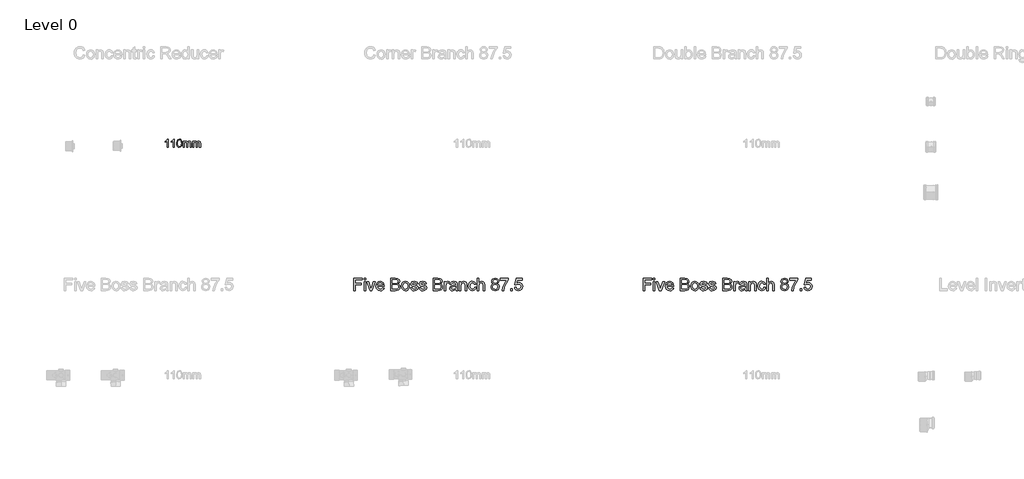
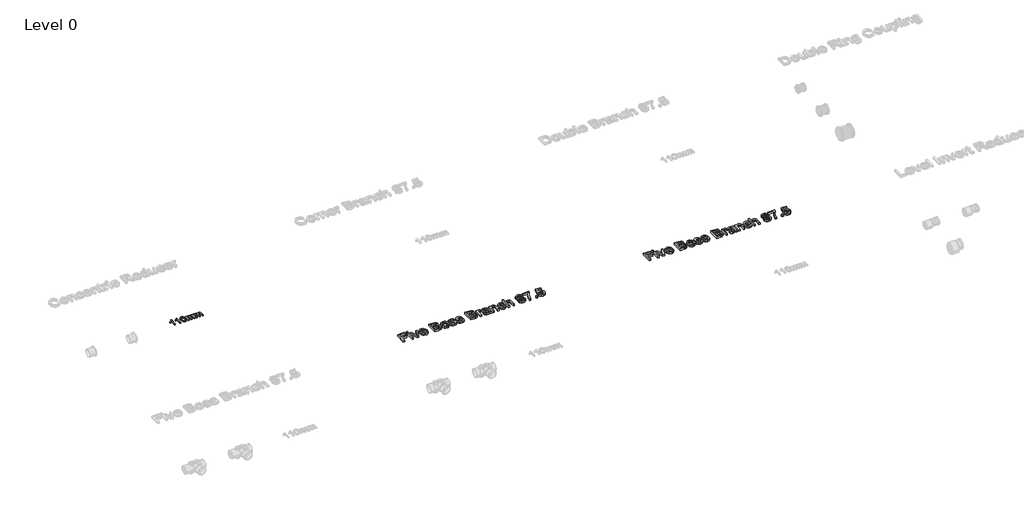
# One storey, part 17 of 23: 3 proxies.
"""IFC4 building model written with IfcOpenShell, lengths in millimetres."""

from ifc_helpers import new_model, si_unit, origin, origin_with_axes, place, context, project, spatial, polyline, outline, extrude, element, save

model = new_model("IFC4")

# Units and contexts
model_context = context("Model", 3, world=origin())
ifc_project = project(units=[si_unit("LENGTHUNIT", "METRE", prefix="MILLI")], contexts=[model_context])

# Site, building, storey
site = spatial("IfcSite", under=ifc_project)
building = spatial("IfcBuilding", under=site)
storey = spatial("IfcBuildingStorey", under=building, Name="Level 0", Elevation=0.0)

# Proxies
placement = place(None, origin())
element("IfcBuildingElementProxy", 1, Name="100mm Arial", ObjectType="100mm Arial", at=placement, inside=storey, context=model_context, shape_type="SweptSolid", body=[
    extrude(outline(polyline([(-6791.7293188, 5437.7167304), (-6804.0370111, 5437.7167304), (-6804.0370111, 5514.4474996), (-6815.6956649, 5506.1422111), (-6828.6523957, 5499.9282688), (-6828.6523957, 5511.5628842), (-6810.6115303, 5523.0773073), (-6799.6620111, 5536.1782688), (-6791.7293188, 5536.1782688), (-6791.7293188, 5437.7167304)])), origin_with_axes(), (0.0, 0.0, 1.0), 15.0),
    extrude(outline(polyline([(-6716.3447034, 5437.7167304), (-6728.6523957, 5437.7167304), (-6728.6523957, 5514.4474996), (-6740.3110495, 5506.1422111), (-6753.2677803, 5499.9282688), (-6753.2677803, 5511.5628842), (-6735.2269149, 5523.0773073), (-6724.2773957, 5536.1782688), (-6716.3447034, 5536.1782688), (-6716.3447034, 5437.7167304)])), origin_with_axes(), (0.0, 0.0, 1.0), 15.0),
    extrude(outline(polyline([(-6687.1139341, 5486.1542304), (-6683.4961457, 5514.4835573), (-6672.7509534, 5530.8176919), (-6654.8062418, 5536.1782688), (-6640.4312418, 5533.0051919), (-6630.5033572, 5523.8585573), (-6624.7341264, 5509.2912496), (-6622.4985495, 5486.1542304), (-6626.0802803, 5457.9450958), (-6636.7894149, 5441.5749035), (-6654.8062418, 5436.1782688), (-6667.5947034, 5438.5220188), (-6677.3062418, 5445.5532688), (-6684.6620111, 5462.2059131), (-6687.1139341, 5486.1542304)]), holes=[polyline([(-6674.8062418, 5486.1782688), (-6673.3639341, 5466.8182929), (-6669.0370111, 5455.613365), (-6662.5947034, 5450.2678121), (-6654.8062418, 5448.4859611), (-6647.0177803, 5450.2738217), (-6640.5754726, 5455.6374035), (-6636.2485495, 5466.848341), (-6634.8062418, 5486.1782688), (-6636.2004726, 5505.1025477), (-6640.3831649, 5516.394615), (-6646.8134534, 5522.0015861), (-6654.9504726, 5523.8705765), (-6662.6547995, 5522.2239419), (-6668.8447034, 5517.2840381), (-6673.3158572, 5505.2888458), (-6674.8062418, 5486.1782688)])]), origin_with_axes(), (0.0, 0.0, 1.0), 15.0),
    extrude(outline(polyline([(-6608.6523957, 5437.7167304), (-6608.6523957, 5510.0244227), (-6596.3447034, 5510.0244227), (-6596.3447034, 5498.1253842), (-6587.8831649, 5507.8729804), (-6575.8398957, 5511.5628842), (-6563.5081649, 5507.800865), (-6556.7293188, 5497.2599996), (-6547.1259534, 5507.9871631), (-6534.9985495, 5511.5628842), (-6525.7467466, 5510.0755044), (-6518.9047995, 5505.613365), (-6514.6770351, 5498.0562736), (-6513.2677803, 5487.2840381), (-6513.2677803, 5437.7167304), (-6525.5754726, 5437.7167304), (-6525.5754726, 5481.9955765), (-6526.7172995, 5492.2720188), (-6530.8519149, 5497.332115), (-6537.8831649, 5499.2551919), (-6549.9865303, 5494.3273073), (-6554.8062418, 5478.5340381), (-6554.8062418, 5437.7167304), (-6567.1139341, 5437.7167304), (-6567.1139341, 5483.3657688), (-6569.9624918, 5495.2888458), (-6579.3014341, 5499.2551919), (-6588.4120111, 5496.6109611), (-6594.4697034, 5488.8705765), (-6596.3447034, 5474.1830765), (-6596.3447034, 5437.7167304), (-6608.6523957, 5437.7167304)])), origin_with_axes(), (0.0, 0.0, 1.0), 15.0),
    extrude(outline(polyline([(-6494.8062418, 5437.7167304), (-6494.8062418, 5510.0244227), (-6482.4985495, 5510.0244227), (-6482.4985495, 5498.1253842), (-6474.0370111, 5507.8729804), (-6461.9937418, 5511.5628842), (-6449.6620111, 5507.800865), (-6442.8831649, 5497.2599996), (-6433.2797995, 5507.9871631), (-6421.1523957, 5511.5628842), (-6411.9005928, 5510.0755044), (-6405.0586457, 5505.613365), (-6400.8308813, 5498.0562736), (-6399.4216264, 5487.2840381), (-6399.4216264, 5437.7167304), (-6411.7293188, 5437.7167304), (-6411.7293188, 5481.9955765), (-6412.8711457, 5492.2720188), (-6417.0057611, 5497.332115), (-6424.0370111, 5499.2551919), (-6436.1403764, 5494.3273073), (-6440.960088, 5478.5340381), (-6440.960088, 5437.7167304), (-6453.2677803, 5437.7167304), (-6453.2677803, 5483.3657688), (-6456.116338, 5495.2888458), (-6465.4552803, 5499.2551919), (-6474.5658572, 5496.6109611), (-6480.6235495, 5488.8705765), (-6482.4985495, 5474.1830765), (-6482.4985495, 5437.7167304), (-6494.8062418, 5437.7167304)])), origin_with_axes(), (0.0, 0.0, 1.0), 15.0),
])
element("IfcBuildingElementProxy", 2, Name="150mm Arial", ObjectType="150mm Arial", at=placement, inside=storey, context=model_context, shape_type="SweptSolid", body=[
    extrude(outline(polyline([(-4544.4510666, 3705.2145219), (-4544.4510666, 3852.9068296), (-4445.2202973, 3852.9068296), (-4445.2202973, 3834.4452911), (-4525.9895281, 3834.4452911), (-4525.9895281, 3790.5991373), (-4456.7587589, 3790.5991373), (-4456.7587589, 3772.1375988), (-4525.9895281, 3772.1375988), (-4525.9895281, 3705.2145219), (-4544.4510666, 3705.2145219)])), origin_with_axes(), (0.0, 0.0, 1.0), 25.0),
    extrude(outline(polyline([(-4422.1433743, 3834.4452911), (-4422.1433743, 3852.9068296), (-4403.6818358, 3852.9068296), (-4403.6818358, 3834.4452911), (-4422.1433743, 3834.4452911)])), origin_with_axes(), (0.0, 0.0, 1.0), 25.0),
    extrude(outline(polyline([(-4422.1433743, 3705.2145219), (-4422.1433743, 3813.6760604), (-4403.6818358, 3813.6760604), (-4403.6818358, 3705.2145219), (-4422.1433743, 3705.2145219)])), origin_with_axes(), (0.0, 0.0, 1.0), 25.0),
    extrude(outline(polyline([(-4349.3789512, 3705.2145219), (-4387.5279897, 3813.6760604), (-4367.9847204, 3813.6760604), (-4344.8717397, 3748.7000988), (-4337.912605, 3726.8491373), (-4331.0977012, 3747.4741373), (-4307.8404897, 3813.6760604), (-4288.2972204, 3813.6760604), (-4325.9775089, 3705.2145219), (-4349.3789512, 3705.2145219)])), origin_with_axes(), (0.0, 0.0, 1.0), 25.0),
    extrude(outline(polyline([(-4196.2058743, 3737.5222142), (-4178.1049127, 3735.2145219), (-4184.6268478, 3721.5756998), (-4195.0339993, 3711.3803873), (-4209.0919921, 3705.025219), (-4226.5664512, 3702.9068296), (-4248.2281098, 3706.5621782), (-4264.8957781, 3717.5282238), (-4275.5237829, 3735.0928272), (-4279.0664512, 3758.5438488), (-4275.4877252, 3782.7836325), (-4264.7515473, 3800.9116373), (-4248.3092397, 3812.2157238), (-4227.6121243, 3815.9837527), (-4207.5595401, 3812.2247383), (-4191.5364031, 3800.947695), (-4181.030093, 3782.8557479), (-4177.5279897, 3758.6520219), (-4177.6361627, 3753.6760604), (-4260.6049127, 3753.6760604), (-4257.4092997, 3739.8569498), (-4249.9859223, 3729.697695), (-4239.2722805, 3723.4506998), (-4226.2058743, 3721.3683681), (-4208.1049127, 3725.2265411), (-4196.2058743, 3737.5222142)]), holes=[polyline([(-4260.6049127, 3772.1375988), (-4195.9895281, 3772.1375988), (-4198.4865233, 3781.8912046), (-4203.381355, 3788.8683681), (-4214.1445762, 3795.3587527), (-4227.6842397, 3797.5222142), (-4240.1286507, 3795.7959522), (-4250.4186147, 3790.6171661), (-4257.5715594, 3782.5447503), (-4260.6049127, 3772.1375988)])]), origin_with_axes(), (0.0, 0.0, 1.0), 25.0),
    extrude(outline(polyline([(-4099.0664512, 3705.2145219), (-4099.0664512, 3852.9068296), (-4042.7082781, 3852.9068296), (-4015.1061147, 3848.5618777), (-4005.8302733, 3843.049558), (-3998.8080377, 3835.2025027), (-3992.912605, 3816.3082719), (-3997.8705377, 3799.0546661), (-4012.8525089, 3785.9837527), (-4002.3912709, 3780.5210123), (-3994.6614031, 3772.2097142), (-3989.8882661, 3761.5997383), (-3988.2972204, 3749.2409642), (-3992.6421723, 3729.3912046), (-4003.4053935, 3715.2565892), (-4019.4690954, 3707.7565892), (-4043.1409704, 3705.2145219), (-4099.0664512, 3705.2145219)]), holes=[polyline([(-4080.6049127, 3723.6760604), (-4042.7443358, 3723.6760604), (-4029.0424127, 3724.3972142), (-4017.4498647, 3728.4176469), (-4009.7695762, 3736.6207719), (-4006.7587589, 3749.0606758), (-4010.2924127, 3763.4116373), (-4021.74073, 3771.9753392), (-4044.5472204, 3774.4452911), (-4080.6049127, 3774.4452911), (-4080.6049127, 3723.6760604)]), polyline([(-4080.6049127, 3792.9068296), (-4046.8909704, 3792.9068296), (-4027.2034704, 3794.4933681), (-4015.3585185, 3801.3263008), (-4011.3741435, 3813.3515411), (-4015.0880858, 3825.3948104), (-4025.725105, 3832.5162046), (-4049.4510666, 3834.4452911), (-4080.6049127, 3834.4452911), (-4080.6049127, 3792.9068296)])]), origin_with_axes(), (0.0, 0.0, 1.0), 25.0),
    extrude(outline(polyline([(-3969.835682, 3759.4452911), (-3965.8422925, 3785.5961325), (-3953.8621243, 3803.9765411), (-3939.0604416, 3812.9819498), (-3921.3380858, 3815.9837527), (-3901.9435546, 3812.3284041), (-3886.4522685, 3801.3623585), (-3876.2975209, 3783.9510003), (-3872.912605, 3760.9597142), (-3874.4089993, 3742.3088729), (-3878.898182, 3728.1111565), (-3886.249444, 3717.4786445), (-3896.3320762, 3709.5234161), (-3908.3077372, 3704.5609762), (-3921.3380858, 3702.9068296), (-3940.9669921, 3706.5486565), (-3956.4402493, 3717.4741373), (-3966.4868238, 3735.2505796), (-3969.835682, 3759.4452911)]), holes=[polyline([(-3951.3741435, 3759.4813488), (-3949.2377252, 3742.7731157), (-3942.8284704, 3730.86957), (-3933.1830377, 3723.7436686), (-3921.3380858, 3721.3683681), (-3909.5472204, 3723.7571902), (-3899.9198166, 3730.9236565), (-3893.5105618, 3742.9849546), (-3891.3741435, 3760.0582719), (-3893.5240834, 3776.2797262), (-3899.9739031, 3788.0210123), (-3909.6148286, 3795.1469137), (-3921.3380858, 3797.5222142), (-3933.1830377, 3795.1559282), (-3942.8284704, 3788.05707), (-3949.2377252, 3776.1805676), (-3951.3741435, 3759.4813488)])]), origin_with_axes(), (0.0, 0.0, 1.0), 25.0),
    extrude(outline(polyline([(-3859.0664512, 3737.5222142), (-3840.6049127, 3739.8299065), (-3837.6932541, 3731.9332719), (-3832.0592397, 3726.1279835), (-3812.4799127, 3721.3683681), (-3793.6577973, 3725.7313488), (-3787.5279897, 3735.9717335), (-3793.693855, 3744.2650027), (-3812.6962589, 3749.5294258), (-3840.4967397, 3758.5618777), (-3852.6301531, 3769.1087527), (-3856.7587589, 3784.0005796), (-3853.4414512, 3797.7565892), (-3844.3909704, 3808.2674065), (-3832.6541916, 3813.7301469), (-3816.7707781, 3815.9837527), (-3794.3068358, 3812.3599546), (-3780.0279897, 3802.5522623), (-3773.6818358, 3785.9837527), (-3792.1433743, 3783.6760604), (-3799.08448, 3793.8623585), (-3815.3284704, 3797.5222142), (-3832.9967397, 3794.0246181), (-3838.2972204, 3785.8755796), (-3836.0977012, 3780.5029835), (-3829.210682, 3776.4284642), (-3813.3092397, 3772.4981758), (-3786.2118839, 3763.8082719), (-3773.6277493, 3753.9645219), (-3769.0664512, 3737.9188488), (-3774.4210185, 3720.2505796), (-3789.8717397, 3707.43207), (-3812.7323166, 3702.9068296), (-3831.3471002, 3705.08832), (-3844.9318358, 3711.6327911), (-3854.0003454, 3722.4681277), (-3859.0664512, 3737.5222142)])), origin_with_axes(), (0.0, 0.0, 1.0), 25.0),
    extrude(outline(polyline([(-3755.2202973, 3737.5222142), (-3736.7587589, 3739.8299065), (-3733.8471002, 3731.9332719), (-3728.2130858, 3726.1279835), (-3708.6337589, 3721.3683681), (-3689.8116435, 3725.7313488), (-3683.6818358, 3735.9717335), (-3689.8477012, 3744.2650027), (-3708.850105, 3749.5294258), (-3736.6505858, 3758.5618777), (-3748.7839993, 3769.1087527), (-3752.912605, 3784.0005796), (-3749.5952973, 3797.7565892), (-3740.5448166, 3808.2674065), (-3728.8080377, 3813.7301469), (-3712.9246243, 3815.9837527), (-3690.460682, 3812.3599546), (-3676.1818358, 3802.5522623), (-3669.835682, 3785.9837527), (-3688.2972204, 3783.6760604), (-3695.2383262, 3793.8623585), (-3711.4823166, 3797.5222142), (-3729.1505858, 3794.0246181), (-3734.4510666, 3785.8755796), (-3732.2515473, 3780.5029835), (-3725.3645281, 3776.4284642), (-3709.4630858, 3772.4981758), (-3682.36573, 3763.8082719), (-3669.7815954, 3753.9645219), (-3665.2202973, 3737.9188488), (-3670.5748647, 3720.2505796), (-3686.0255858, 3707.43207), (-3708.8861627, 3702.9068296), (-3727.5009464, 3705.08832), (-3741.085682, 3711.6327911), (-3750.1541916, 3722.4681277), (-3755.2202973, 3737.5222142)])), origin_with_axes(), (0.0, 0.0, 1.0), 25.0),
    extrude(outline(polyline([(-3584.4510666, 3705.2145219), (-3584.4510666, 3852.9068296), (-3528.0928935, 3852.9068296), (-3500.49073, 3848.5618777), (-3491.2148887, 3843.049558), (-3484.1926531, 3835.2025027), (-3478.2972204, 3816.3082719), (-3483.2551531, 3799.0546661), (-3498.2371243, 3785.9837527), (-3487.7758863, 3780.5210123), (-3480.0460185, 3772.2097142), (-3475.2728815, 3761.5997383), (-3473.6818358, 3749.2409642), (-3478.0267877, 3729.3912046), (-3488.7900089, 3715.2565892), (-3504.8537108, 3707.7565892), (-3528.5255858, 3705.2145219), (-3584.4510666, 3705.2145219)]), holes=[polyline([(-3565.9895281, 3723.6760604), (-3528.1289512, 3723.6760604), (-3514.4270281, 3724.3972142), (-3502.83448, 3728.4176469), (-3495.1541916, 3736.6207719), (-3492.1433743, 3749.0606758), (-3495.6770281, 3763.4116373), (-3507.1253454, 3771.9753392), (-3529.9318358, 3774.4452911), (-3565.9895281, 3774.4452911), (-3565.9895281, 3723.6760604)]), polyline([(-3565.9895281, 3792.9068296), (-3532.2755858, 3792.9068296), (-3512.5880858, 3794.4933681), (-3500.7431339, 3801.3263008), (-3496.7587589, 3813.3515411), (-3500.4727012, 3825.3948104), (-3511.1097204, 3832.5162046), (-3534.835682, 3834.4452911), (-3565.9895281, 3834.4452911), (-3565.9895281, 3792.9068296)])]), origin_with_axes(), (0.0, 0.0, 1.0), 25.0),
    extrude(outline(polyline([(-3450.6049127, 3705.2145219), (-3450.6049127, 3813.6760604), (-3434.4510666, 3813.6760604), (-3434.4510666, 3797.6303873), (-3422.9847204, 3812.4140411), (-3411.4462589, 3815.9837527), (-3392.912605, 3810.2866373), (-3399.0784704, 3793.7361565), (-3412.0592397, 3797.5222142), (-3422.4979416, 3793.8803873), (-3429.1505858, 3783.7842335), (-3432.1433743, 3762.2217335), (-3432.1433743, 3705.2145219), (-3450.6049127, 3705.2145219)])), origin_with_axes(), (0.0, 0.0, 1.0), 25.0),
    extrude(outline(polyline([(-3312.1433743, 3719.0606758), (-3330.0460185, 3706.5486565), (-3349.8236627, 3702.9068296), (-3365.2518478, 3705.0973344), (-3376.632557, 3711.6688488), (-3383.6502853, 3721.6478152), (-3385.9895281, 3734.0606758), (-3382.4558743, 3748.6640411), (-3373.1710185, 3759.2650027), (-3360.2443358, 3765.322695), (-3344.2707781, 3768.0991373), (-3312.2515473, 3774.4452911), (-3312.1433743, 3778.5558681), (-3313.4144079, 3786.7950508), (-3317.2275089, 3792.1856758), (-3325.7551531, 3796.1880796), (-3337.6361627, 3797.5222142), (-3356.3140473, 3793.9705315), (-3365.2202973, 3781.3683681), (-3383.6818358, 3783.6760604), (-3375.695057, 3801.7049065), (-3359.6133262, 3812.2698104), (-3335.256355, 3815.9837527), (-3312.882557, 3812.7025027), (-3300.2443358, 3804.46332), (-3294.5832781, 3791.9332719), (-3293.6818358, 3775.7794258), (-3293.6818358, 3752.8106758), (-3292.7443358, 3720.7373585), (-3289.0664512, 3705.2145219), (-3307.5279897, 3705.2145219), (-3312.1433743, 3719.0606758)]), holes=[polyline([(-3312.1433743, 3755.9837527), (-3341.9270281, 3750.322695), (-3357.8104416, 3747.3299065), (-3365.0039512, 3742.4621181), (-3367.5279897, 3735.3587527), (-3362.0291916, 3725.3707719), (-3345.8933743, 3721.3683681), (-3327.2154897, 3725.7854354), (-3315.1722204, 3736.4765411), (-3312.2515473, 3750.7553873), (-3312.1433743, 3755.9837527)])]), origin_with_axes(), (0.0, 0.0, 1.0), 25.0),
    extrude(outline(polyline([(-3268.2972204, 3705.2145219), (-3268.2972204, 3813.6760604), (-3249.835682, 3813.6760604), (-3249.835682, 3798.5318296), (-3235.7190954, 3811.6207719), (-3216.4462589, 3815.9837527), (-3199.0123647, 3812.4681277), (-3187.1133262, 3803.2373585), (-3181.5784704, 3789.6616373), (-3180.6049127, 3771.8130796), (-3180.6049127, 3705.2145219), (-3199.0664512, 3705.2145219), (-3199.0664512, 3769.3250988), (-3201.193855, 3785.6592335), (-3208.7118839, 3794.2950508), (-3221.3861627, 3797.5222142), (-3232.1989632, 3795.7103152), (-3241.4162108, 3790.2746181), (-3247.7308142, 3779.7728152), (-3249.835682, 3762.7625988), (-3249.835682, 3705.2145219), (-3268.2972204, 3705.2145219)])), origin_with_axes(), (0.0, 0.0, 1.0), 25.0),
    extrude(outline(polyline([(-3085.9895281, 3744.4452911), (-3067.5279897, 3742.1375988), (-3072.6752252, 3725.7178272), (-3082.3477012, 3713.3094738), (-3095.6349608, 3705.5074907), (-3111.6265473, 3702.9068296), (-3131.264468, 3706.5351349), (-3146.6205377, 3717.4200508), (-3156.5318959, 3735.0838128), (-3159.835682, 3759.0486565), (-3154.1926531, 3789.7157238), (-3147.0712589, 3801.2136205), (-3136.9931339, 3809.4212527), (-3124.936343, 3814.3431277), (-3111.8789512, 3815.9837527), (-3096.2794921, 3813.7301469), (-3083.8080377, 3806.9693296), (-3074.8612228, 3796.0618777), (-3069.835682, 3781.3683681), (-3088.2972204, 3779.0606758), (-3096.8609223, 3792.8888008), (-3111.7347204, 3797.5222142), (-3123.6653094, 3795.2415652), (-3133.1349608, 3788.3996181), (-3139.3143478, 3776.6267815), (-3141.3741435, 3759.5534642), (-3139.3594199, 3742.2502791), (-3133.3152493, 3730.4368777), (-3124.0168719, 3723.6354955), (-3112.2395281, 3721.3683681), (-3102.6797324, 3722.7836325), (-3094.8416916, 3727.0294258), (-3089.140069, 3734.213921), (-3085.9895281, 3744.4452911)])), origin_with_axes(), (0.0, 0.0, 1.0), 25.0),
    extrude(outline(polyline([(-3051.3741435, 3705.2145219), (-3051.3741435, 3852.9068296), (-3032.912605, 3852.9068296), (-3032.912605, 3798.603945), (-3018.5165714, 3811.6388008), (-3000.7852012, 3815.9837527), (-2980.0520281, 3811.2421661), (-2967.4678935, 3798.135195), (-2963.6818358, 3773.8683681), (-2963.6818358, 3705.2145219), (-2982.1433743, 3705.2145219), (-2982.1433743, 3771.9573104), (-2983.6127252, 3783.5138008), (-2988.0207781, 3791.4284642), (-2995.1241435, 3795.9987767), (-3004.679432, 3797.5222142), (-3019.8056339, 3793.4116373), (-3029.9017877, 3782.2698104), (-3032.912605, 3762.8347142), (-3032.912605, 3705.2145219), (-3051.3741435, 3705.2145219)])), origin_with_axes(), (0.0, 0.0, 1.0), 25.0),
    extrude(outline(polyline([(-2858.3212589, 3786.5606758), (-2875.1421723, 3798.0270219), (-2880.6049127, 3815.8755796), (-2877.6301531, 3830.307671), (-2868.7058743, 3842.2337527), (-2854.8326772, 3850.2385604), (-2837.0111627, 3852.9068296), (-2819.0814752, 3850.1754594), (-2805.0279897, 3841.9813488), (-2795.9414512, 3829.8659642), (-2792.912605, 3815.3707719), (-2798.30323, 3797.9729354), (-2814.6553935, 3786.5606758), (-2803.2927132, 3780.705808), (-2795.02198, 3772.0835123), (-2789.9784103, 3761.1084522), (-2788.2972204, 3748.1952911), (-2791.632557, 3730.5450508), (-2801.6385666, 3715.9597142), (-2817.0892877, 3706.1700508), (-2836.7587589, 3702.9068296), (-2856.42823, 3706.1835724), (-2871.8789512, 3716.0138008), (-2881.8849608, 3730.7388609), (-2885.2202973, 3748.7000988), (-2883.4714993, 3762.1135604), (-2878.225105, 3773.1472142), (-2869.7515473, 3781.4224546), (-2858.3212589, 3786.5606758)]), holes=[polyline([(-2866.7587589, 3749.3491373), (-2863.6758262, 3735.4488969), (-2852.7683743, 3725.0462527), (-2836.6145281, 3721.3683681), (-2824.0484223, 3723.3019618), (-2814.6193358, 3729.1027431), (-2808.7239031, 3737.8872984), (-2806.7587589, 3748.7722142), (-2808.7870041, 3759.8419258), (-2814.8717397, 3768.8202911), (-2824.5171723, 3774.7698104), (-2837.2275089, 3776.7529835), (-2849.6178334, 3774.7968536), (-2858.9522685, 3768.9284642), (-2864.8071363, 3760.1213729), (-2866.7587589, 3749.3491373)]), polyline([(-2862.1433743, 3815.3347142), (-2860.5072565, 3807.27582), (-2855.5989031, 3800.8395219), (-2847.5625449, 3796.6207719), (-2836.5424127, 3795.2145219), (-2825.7791916, 3796.6117575), (-2817.8645281, 3800.8034642), (-2812.9967397, 3807.0234161), (-2811.3741435, 3814.5053873), (-2813.0508262, 3822.2713128), (-2818.0808743, 3828.6940892), (-2826.1037108, 3833.0074907), (-2836.7587589, 3834.4452911), (-2847.4814151, 3833.0390411), (-2855.49073, 3828.8202911), (-2860.4802132, 3822.6363969), (-2862.1433743, 3815.3347142)])]), origin_with_axes(), (0.0, 0.0, 1.0), 25.0),
    extrude(outline(polyline([(-2772.1433743, 3832.1375988), (-2772.1433743, 3850.5991373), (-2675.2202973, 3850.5991373), (-2675.2202973, 3835.6712527), (-2702.7142877, 3795.9537046), (-2723.7539512, 3745.3467335), (-2730.6049127, 3705.2145219), (-2749.0664512, 3705.2145219), (-2741.7287108, 3746.8611565), (-2721.5904897, 3793.9344738), (-2693.6818358, 3832.1375988), (-2772.1433743, 3832.1375988)])), origin_with_axes(), (0.0, 0.0, 1.0), 25.0),
    extrude(outline(polyline([(-2649.835682, 3705.2145219), (-2649.835682, 3723.6760604), (-2631.3741435, 3723.6760604), (-2631.3741435, 3705.2145219), (-2649.835682, 3705.2145219)])), origin_with_axes(), (0.0, 0.0, 1.0), 25.0),
    extrude(outline(polyline([(-2601.3741435, 3744.4452911), (-2582.912605, 3746.7529835), (-2579.523182, 3735.6697503), (-2573.6097204, 3727.7325508), (-2565.1992637, 3722.9594137), (-2554.318855, 3721.3683681), (-2541.085682, 3723.5814089), (-2531.1698166, 3730.2205315), (-2524.9769079, 3740.5195099), (-2522.912605, 3753.7121181), (-2524.8461988, 3766.1339931), (-2530.64698, 3775.635195), (-2540.3600209, 3781.665844), (-2554.0303935, 3783.6760604), (-2570.2383262, 3780.4669258), (-2580.6049127, 3772.1375988), (-2599.0664512, 3774.4452911), (-2582.912605, 3850.5991373), (-2511.3741435, 3850.5991373), (-2511.3741435, 3832.1375988), (-2567.9847204, 3832.1375988), (-2575.881355, 3791.4645219), (-2562.6932541, 3799.4693296), (-2548.8741435, 3802.1375988), (-2531.6250449, 3798.8293056), (-2517.3056339, 3788.9044258), (-2507.6647084, 3773.7782238), (-2504.4510666, 3754.8659642), (-2507.3446964, 3736.4044258), (-2516.0255858, 3720.6111565), (-2532.648182, 3707.3329113), (-2554.3909704, 3702.9068296), (-2572.5234824, 3705.7508801), (-2586.9690954, 3714.2830315), (-2596.8714392, 3727.5116974), (-2601.3741435, 3744.4452911)])), origin_with_axes(), (0.0, 0.0, 1.0), 25.0),
])
element("IfcBuildingElementProxy", 3, Name="150mm Arial", ObjectType="150mm Arial", at=placement, inside=storey, context=model_context, shape_type="SweptSolid", body=[
    extrude(outline(polyline([(-1044.4510666, 3705.2145219), (-1044.4510666, 3852.9068296), (-945.2202973, 3852.9068296), (-945.2202973, 3834.4452911), (-1025.9895281, 3834.4452911), (-1025.9895281, 3790.5991373), (-956.7587589, 3790.5991373), (-956.7587589, 3772.1375988), (-1025.9895281, 3772.1375988), (-1025.9895281, 3705.2145219), (-1044.4510666, 3705.2145219)])), origin_with_axes(), (0.0, 0.0, 1.0), 25.0),
    extrude(outline(polyline([(-922.1433743, 3834.4452911), (-922.1433743, 3852.9068296), (-903.6818358, 3852.9068296), (-903.6818358, 3834.4452911), (-922.1433743, 3834.4452911)])), origin_with_axes(), (0.0, 0.0, 1.0), 25.0),
    extrude(outline(polyline([(-922.1433743, 3705.2145219), (-922.1433743, 3813.6760604), (-903.6818358, 3813.6760604), (-903.6818358, 3705.2145219), (-922.1433743, 3705.2145219)])), origin_with_axes(), (0.0, 0.0, 1.0), 25.0),
    extrude(outline(polyline([(-849.3789512, 3705.2145219), (-887.5279897, 3813.6760604), (-867.9847204, 3813.6760604), (-844.8717397, 3748.7000988), (-837.912605, 3726.8491373), (-831.0977012, 3747.4741373), (-807.8404897, 3813.6760604), (-788.2972204, 3813.6760604), (-825.9775089, 3705.2145219), (-849.3789512, 3705.2145219)])), origin_with_axes(), (0.0, 0.0, 1.0), 25.0),
    extrude(outline(polyline([(-696.2058743, 3737.5222142), (-678.1049127, 3735.2145219), (-684.6268478, 3721.5756998), (-695.0339993, 3711.3803873), (-709.0919921, 3705.025219), (-726.5664512, 3702.9068296), (-748.2281098, 3706.5621782), (-764.8957781, 3717.5282238), (-775.5237829, 3735.0928272), (-779.0664512, 3758.5438488), (-775.4877252, 3782.7836325), (-764.7515473, 3800.9116373), (-748.3092397, 3812.2157238), (-727.6121243, 3815.9837527), (-707.5595401, 3812.2247383), (-691.5364031, 3800.947695), (-681.030093, 3782.8557479), (-677.5279897, 3758.6520219), (-677.6361627, 3753.6760604), (-760.6049127, 3753.6760604), (-757.4092997, 3739.8569498), (-749.9859223, 3729.697695), (-739.2722805, 3723.4506998), (-726.2058743, 3721.3683681), (-708.1049127, 3725.2265411), (-696.2058743, 3737.5222142)]), holes=[polyline([(-760.6049127, 3772.1375988), (-695.9895281, 3772.1375988), (-698.4865233, 3781.8912046), (-703.381355, 3788.8683681), (-714.1445762, 3795.3587527), (-727.6842397, 3797.5222142), (-740.1286507, 3795.7959522), (-750.4186147, 3790.6171661), (-757.5715594, 3782.5447503), (-760.6049127, 3772.1375988)])]), origin_with_axes(), (0.0, 0.0, 1.0), 25.0),
    extrude(outline(polyline([(-599.0664512, 3705.2145219), (-599.0664512, 3852.9068296), (-542.7082781, 3852.9068296), (-515.1061147, 3848.5618777), (-505.8302733, 3843.049558), (-498.8080377, 3835.2025027), (-492.912605, 3816.3082719), (-497.8705377, 3799.0546661), (-512.8525089, 3785.9837527), (-502.3912709, 3780.5210123), (-494.6614031, 3772.2097142), (-489.8882661, 3761.5997383), (-488.2972204, 3749.2409642), (-492.6421723, 3729.3912046), (-503.4053935, 3715.2565892), (-519.4690954, 3707.7565892), (-543.1409704, 3705.2145219), (-599.0664512, 3705.2145219)]), holes=[polyline([(-580.6049127, 3723.6760604), (-542.7443358, 3723.6760604), (-529.0424127, 3724.3972142), (-517.4498647, 3728.4176469), (-509.7695762, 3736.6207719), (-506.7587589, 3749.0606758), (-510.2924127, 3763.4116373), (-521.74073, 3771.9753392), (-544.5472204, 3774.4452911), (-580.6049127, 3774.4452911), (-580.6049127, 3723.6760604)]), polyline([(-580.6049127, 3792.9068296), (-546.8909704, 3792.9068296), (-527.2034704, 3794.4933681), (-515.3585185, 3801.3263008), (-511.3741435, 3813.3515411), (-515.0880858, 3825.3948104), (-525.725105, 3832.5162046), (-549.4510666, 3834.4452911), (-580.6049127, 3834.4452911), (-580.6049127, 3792.9068296)])]), origin_with_axes(), (0.0, 0.0, 1.0), 25.0),
    extrude(outline(polyline([(-469.835682, 3759.4452911), (-465.8422925, 3785.5961325), (-453.8621243, 3803.9765411), (-439.0604416, 3812.9819498), (-421.3380858, 3815.9837527), (-401.9435546, 3812.3284041), (-386.4522685, 3801.3623585), (-376.2975209, 3783.9510003), (-372.912605, 3760.9597142), (-374.4089993, 3742.3088729), (-378.898182, 3728.1111565), (-386.249444, 3717.4786445), (-396.3320762, 3709.5234161), (-408.3077372, 3704.5609762), (-421.3380858, 3702.9068296), (-440.9669921, 3706.5486565), (-456.4402493, 3717.4741373), (-466.4868238, 3735.2505796), (-469.835682, 3759.4452911)]), holes=[polyline([(-451.3741435, 3759.4813488), (-449.2377252, 3742.7731157), (-442.8284704, 3730.86957), (-433.1830377, 3723.7436686), (-421.3380858, 3721.3683681), (-409.5472204, 3723.7571902), (-399.9198166, 3730.9236565), (-393.5105618, 3742.9849546), (-391.3741435, 3760.0582719), (-393.5240834, 3776.2797262), (-399.9739031, 3788.0210123), (-409.6148286, 3795.1469137), (-421.3380858, 3797.5222142), (-433.1830377, 3795.1559282), (-442.8284704, 3788.05707), (-449.2377252, 3776.1805676), (-451.3741435, 3759.4813488)])]), origin_with_axes(), (0.0, 0.0, 1.0), 25.0),
    extrude(outline(polyline([(-359.0664512, 3737.5222142), (-340.6049127, 3739.8299065), (-337.6932541, 3731.9332719), (-332.0592397, 3726.1279835), (-312.4799127, 3721.3683681), (-293.6577973, 3725.7313488), (-287.5279897, 3735.9717335), (-293.693855, 3744.2650027), (-312.6962589, 3749.5294258), (-340.4967397, 3758.5618777), (-352.6301531, 3769.1087527), (-356.7587589, 3784.0005796), (-353.4414512, 3797.7565892), (-344.3909704, 3808.2674065), (-332.6541916, 3813.7301469), (-316.7707781, 3815.9837527), (-294.3068358, 3812.3599546), (-280.0279897, 3802.5522623), (-273.6818358, 3785.9837527), (-292.1433743, 3783.6760604), (-299.08448, 3793.8623585), (-315.3284704, 3797.5222142), (-332.9967397, 3794.0246181), (-338.2972204, 3785.8755796), (-336.0977012, 3780.5029835), (-329.210682, 3776.4284642), (-313.3092397, 3772.4981758), (-286.2118839, 3763.8082719), (-273.6277493, 3753.9645219), (-269.0664512, 3737.9188488), (-274.4210185, 3720.2505796), (-289.8717397, 3707.43207), (-312.7323166, 3702.9068296), (-331.3471002, 3705.08832), (-344.9318358, 3711.6327911), (-354.0003454, 3722.4681277), (-359.0664512, 3737.5222142)])), origin_with_axes(), (0.0, 0.0, 1.0), 25.0),
    extrude(outline(polyline([(-255.2202973, 3737.5222142), (-236.7587589, 3739.8299065), (-233.8471002, 3731.9332719), (-228.2130858, 3726.1279835), (-208.6337589, 3721.3683681), (-189.8116435, 3725.7313488), (-183.6818358, 3735.9717335), (-189.8477012, 3744.2650027), (-208.850105, 3749.5294258), (-236.6505858, 3758.5618777), (-248.7839993, 3769.1087527), (-252.912605, 3784.0005796), (-249.5952973, 3797.7565892), (-240.5448166, 3808.2674065), (-228.8080377, 3813.7301469), (-212.9246243, 3815.9837527), (-190.460682, 3812.3599546), (-176.1818358, 3802.5522623), (-169.835682, 3785.9837527), (-188.2972204, 3783.6760604), (-195.2383262, 3793.8623585), (-211.4823166, 3797.5222142), (-229.1505858, 3794.0246181), (-234.4510666, 3785.8755796), (-232.2515473, 3780.5029835), (-225.3645281, 3776.4284642), (-209.4630858, 3772.4981758), (-182.36573, 3763.8082719), (-169.7815954, 3753.9645219), (-165.2202973, 3737.9188488), (-170.5748647, 3720.2505796), (-186.0255858, 3707.43207), (-208.8861627, 3702.9068296), (-227.5009464, 3705.08832), (-241.085682, 3711.6327911), (-250.1541916, 3722.4681277), (-255.2202973, 3737.5222142)])), origin_with_axes(), (0.0, 0.0, 1.0), 25.0),
    extrude(outline(polyline([(-84.4510666, 3705.2145219), (-84.4510666, 3852.9068296), (-28.0928935, 3852.9068296), (-0.49073, 3848.5618777), (8.7851113, 3843.049558), (15.8073469, 3835.2025027), (21.7027796, 3816.3082719), (16.7448469, 3799.0546661), (1.7628757, 3785.9837527), (12.2241137, 3780.5210123), (19.9539815, 3772.2097142), (24.7271185, 3761.5997383), (26.3181642, 3749.2409642), (21.9732123, 3729.3912046), (11.2099911, 3715.2565892), (-4.8537108, 3707.7565892), (-28.5255858, 3705.2145219), (-84.4510666, 3705.2145219)]), holes=[polyline([(-65.9895281, 3723.6760604), (-28.1289512, 3723.6760604), (-14.4270281, 3724.3972142), (-2.83448, 3728.4176469), (4.8458084, 3736.6207719), (7.8566257, 3749.0606758), (4.3229719, 3763.4116373), (-7.1253454, 3771.9753392), (-29.9318358, 3774.4452911), (-65.9895281, 3774.4452911), (-65.9895281, 3723.6760604)]), polyline([(-65.9895281, 3792.9068296), (-32.2755858, 3792.9068296), (-12.5880858, 3794.4933681), (-0.7431339, 3801.3263008), (3.2412411, 3813.3515411), (-0.4727012, 3825.3948104), (-11.1097204, 3832.5162046), (-34.835682, 3834.4452911), (-65.9895281, 3834.4452911), (-65.9895281, 3792.9068296)])]), origin_with_axes(), (0.0, 0.0, 1.0), 25.0),
    extrude(outline(polyline([(49.3950873, 3705.2145219), (49.3950873, 3813.6760604), (65.5489334, 3813.6760604), (65.5489334, 3797.6303873), (77.0152796, 3812.4140411), (88.5537411, 3815.9837527), (107.087395, 3810.2866373), (100.9215296, 3793.7361565), (87.9407603, 3797.5222142), (77.5020584, 3793.8803873), (70.8494142, 3783.7842335), (67.8566257, 3762.2217335), (67.8566257, 3705.2145219), (49.3950873, 3705.2145219)])), origin_with_axes(), (0.0, 0.0, 1.0), 25.0),
    extrude(outline(polyline([(187.8566257, 3719.0606758), (169.9539815, 3706.5486565), (150.1763373, 3702.9068296), (134.7481522, 3705.0973344), (123.367443, 3711.6688488), (116.3497147, 3721.6478152), (114.0104719, 3734.0606758), (117.5441257, 3748.6640411), (126.8289815, 3759.2650027), (139.7556642, 3765.322695), (155.7292219, 3768.0991373), (187.7484527, 3774.4452911), (187.8566257, 3778.5558681), (186.5855921, 3786.7950508), (182.7724911, 3792.1856758), (174.2448469, 3796.1880796), (162.3638373, 3797.5222142), (143.6859527, 3793.9705315), (134.7797027, 3781.3683681), (116.3181642, 3783.6760604), (124.304943, 3801.7049065), (140.3866738, 3812.2698104), (164.743645, 3815.9837527), (187.117443, 3812.7025027), (199.7556642, 3804.46332), (205.4167219, 3791.9332719), (206.3181642, 3775.7794258), (206.3181642, 3752.8106758), (207.2556642, 3720.7373585), (210.9335488, 3705.2145219), (192.4720103, 3705.2145219), (187.8566257, 3719.0606758)]), holes=[polyline([(187.8566257, 3755.9837527), (158.0729719, 3750.322695), (142.1895584, 3747.3299065), (134.9960488, 3742.4621181), (132.4720103, 3735.3587527), (137.9708084, 3725.3707719), (154.1066257, 3721.3683681), (172.7845103, 3725.7854354), (184.8277796, 3736.4765411), (187.7484527, 3750.7553873), (187.8566257, 3755.9837527)])]), origin_with_axes(), (0.0, 0.0, 1.0), 25.0),
    extrude(outline(polyline([(231.7027796, 3705.2145219), (231.7027796, 3813.6760604), (250.164318, 3813.6760604), (250.164318, 3798.5318296), (264.2809046, 3811.6207719), (283.5537411, 3815.9837527), (300.9876353, 3812.4681277), (312.8866738, 3803.2373585), (318.4215296, 3789.6616373), (319.3950873, 3771.8130796), (319.3950873, 3705.2145219), (300.9335488, 3705.2145219), (300.9335488, 3769.3250988), (298.806145, 3785.6592335), (291.2881161, 3794.2950508), (278.6138373, 3797.5222142), (267.8010368, 3795.7103152), (258.5837892, 3790.2746181), (252.2691858, 3779.7728152), (250.164318, 3762.7625988), (250.164318, 3705.2145219), (231.7027796, 3705.2145219)])), origin_with_axes(), (0.0, 0.0, 1.0), 25.0),
    extrude(outline(polyline([(414.0104719, 3744.4452911), (432.4720103, 3742.1375988), (427.3247748, 3725.7178272), (417.6522988, 3713.3094738), (404.3650392, 3705.5074907), (388.3734527, 3702.9068296), (368.735532, 3706.5351349), (353.3794623, 3717.4200508), (343.4681041, 3735.0838128), (340.164318, 3759.0486565), (345.8073469, 3789.7157238), (352.9287411, 3801.2136205), (363.0068661, 3809.4212527), (375.063657, 3814.3431277), (388.1210488, 3815.9837527), (403.7205079, 3813.7301469), (416.1919623, 3806.9693296), (425.1387772, 3796.0618777), (430.164318, 3781.3683681), (411.7027796, 3779.0606758), (403.1390777, 3792.8888008), (388.2652796, 3797.5222142), (376.3346906, 3795.2415652), (366.8650392, 3788.3996181), (360.6856522, 3776.6267815), (358.6258565, 3759.5534642), (360.6405801, 3742.2502791), (366.6847507, 3730.4368777), (375.9831281, 3723.6354955), (387.7604719, 3721.3683681), (397.3202676, 3722.7836325), (405.1583084, 3727.0294258), (410.859931, 3734.213921), (414.0104719, 3744.4452911)])), origin_with_axes(), (0.0, 0.0, 1.0), 25.0),
    extrude(outline(polyline([(448.6258565, 3705.2145219), (448.6258565, 3852.9068296), (467.087395, 3852.9068296), (467.087395, 3798.603945), (481.4834286, 3811.6388008), (499.2147988, 3815.9837527), (519.9479719, 3811.2421661), (532.5321065, 3798.135195), (536.3181642, 3773.8683681), (536.3181642, 3705.2145219), (517.8566257, 3705.2145219), (517.8566257, 3771.9573104), (516.3872748, 3783.5138008), (511.9792219, 3791.4284642), (504.8758565, 3795.9987767), (495.320568, 3797.5222142), (480.1943661, 3793.4116373), (470.0982123, 3782.2698104), (467.087395, 3762.8347142), (467.087395, 3705.2145219), (448.6258565, 3705.2145219)])), origin_with_axes(), (0.0, 0.0, 1.0), 25.0),
    extrude(outline(polyline([(641.6787411, 3786.5606758), (624.8578277, 3798.0270219), (619.3950873, 3815.8755796), (622.3698469, 3830.307671), (631.2941257, 3842.2337527), (645.1673228, 3850.2385604), (662.9888373, 3852.9068296), (680.9185248, 3850.1754594), (694.9720103, 3841.9813488), (704.0585488, 3829.8659642), (707.087395, 3815.3707719), (701.69677, 3797.9729354), (685.3446065, 3786.5606758), (696.7072868, 3780.705808), (704.97802, 3772.0835123), (710.0215897, 3761.1084522), (711.7027796, 3748.1952911), (708.367443, 3730.5450508), (698.3614334, 3715.9597142), (682.9107123, 3706.1700508), (663.2412411, 3702.9068296), (643.57177, 3706.1835724), (628.1210488, 3716.0138008), (618.1150392, 3730.7388609), (614.7797027, 3748.7000988), (616.5285007, 3762.1135604), (621.774895, 3773.1472142), (630.2484527, 3781.4224546), (641.6787411, 3786.5606758)]), holes=[polyline([(633.2412411, 3749.3491373), (636.3241738, 3735.4488969), (647.2316257, 3725.0462527), (663.3854719, 3721.3683681), (675.9515777, 3723.3019618), (685.3806642, 3729.1027431), (691.2760969, 3737.8872984), (693.2412411, 3748.7722142), (691.2129959, 3759.8419258), (685.1282603, 3768.8202911), (675.4828277, 3774.7698104), (662.7724911, 3776.7529835), (650.3821666, 3774.7968536), (641.0477315, 3768.9284642), (635.1928637, 3760.1213729), (633.2412411, 3749.3491373)]), polyline([(637.8566257, 3815.3347142), (639.4927435, 3807.27582), (644.4010969, 3800.8395219), (652.4374551, 3796.6207719), (663.4575873, 3795.2145219), (674.2208084, 3796.6117575), (682.1354719, 3800.8034642), (687.0032603, 3807.0234161), (688.6258565, 3814.5053873), (686.9491738, 3822.2713128), (681.9191257, 3828.6940892), (673.8962892, 3833.0074907), (663.2412411, 3834.4452911), (652.5185849, 3833.0390411), (644.50927, 3828.8202911), (639.5197868, 3822.6363969), (637.8566257, 3815.3347142)])]), origin_with_axes(), (0.0, 0.0, 1.0), 25.0),
    extrude(outline(polyline([(727.8566257, 3832.1375988), (727.8566257, 3850.5991373), (824.7797027, 3850.5991373), (824.7797027, 3835.6712527), (797.2857123, 3795.9537046), (776.2460488, 3745.3467335), (769.3950873, 3705.2145219), (750.9335488, 3705.2145219), (758.2712892, 3746.8611565), (778.4095103, 3793.9344738), (806.3181642, 3832.1375988), (727.8566257, 3832.1375988)])), origin_with_axes(), (0.0, 0.0, 1.0), 25.0),
    extrude(outline(polyline([(850.164318, 3705.2145219), (850.164318, 3723.6760604), (868.6258565, 3723.6760604), (868.6258565, 3705.2145219), (850.164318, 3705.2145219)])), origin_with_axes(), (0.0, 0.0, 1.0), 25.0),
    extrude(outline(polyline([(898.6258565, 3744.4452911), (917.087395, 3746.7529835), (920.476818, 3735.6697503), (926.3902796, 3727.7325508), (934.8007363, 3722.9594137), (945.681145, 3721.3683681), (958.914318, 3723.5814089), (968.8301834, 3730.2205315), (975.0230921, 3740.5195099), (977.087395, 3753.7121181), (975.1538012, 3766.1339931), (969.35302, 3775.635195), (959.6399791, 3781.665844), (945.9696065, 3783.6760604), (929.7616738, 3780.4669258), (919.3950873, 3772.1375988), (900.9335488, 3774.4452911), (917.087395, 3850.5991373), (988.6258565, 3850.5991373), (988.6258565, 3832.1375988), (932.0152796, 3832.1375988), (924.118645, 3791.4645219), (937.3067459, 3799.4693296), (951.1258565, 3802.1375988), (968.3749551, 3798.8293056), (982.6943661, 3788.9044258), (992.3352916, 3773.7782238), (995.5489334, 3754.8659642), (992.6553036, 3736.4044258), (983.9744142, 3720.6111565), (967.351818, 3707.3329113), (945.6090296, 3702.9068296), (927.4765176, 3705.7508801), (913.0309046, 3714.2830315), (903.1285608, 3727.5116974), (898.6258565, 3744.4452911)])), origin_with_axes(), (0.0, 0.0, 1.0), 25.0),
])

save(model, "model.ifc")
